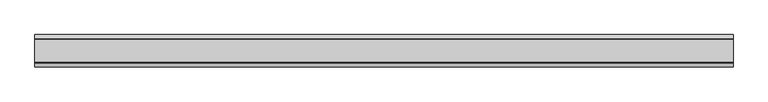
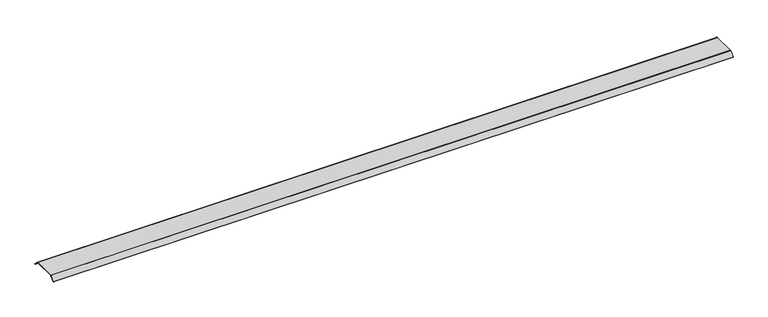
"""IFC4 building model written with IfcOpenShell, lengths in millimetres: proxy geometry, Electrical_Installation_Hager_Blank-Cover-800mm-Double-Sided-Height-40mm : Electrical_Installation_Hager_Blank-Cover-800mm-Double-Sided-Height-40mm."""

from ifc_helpers import new_model, si_unit, point, frame, frame_2d, origin, place, context, project, spatial, polyline, circle_curve, trimmed, segment, composite_curve, outline, extrude, source, transform, mapped, element, save


def electrical_fixtures_dc33c729(model_context):
    return source(origin(), model_context, "Body", "SweptSolid", [
        extrude(outline(composite_curve([segment(trimmed(circle_curve(frame_2d((98.9838855, 19.0468826)), 6.4531174), [point((98.9838855, 25.5))], [point((103.5469286, 23.6099257))], False, "CARTESIAN"), True, "CONTINUOUS"), segment(polyline([(103.5469286, 23.6099257), (140.0386103, -12.8817561), (137.91729, -15.0030764), (101.2293119, 21.6849016)]), True, "CONTINUOUS"), segment(trimmed(circle_curve(frame_2d((99.2614904, 19.7170801)), 2.7829199), [point((101.2293119, 21.6849016))], [point((99.2614904, 22.5))], True, "CARTESIAN"), True, "CONTINUOUS"), segment(polyline([(99.2614904, 22.5), (-99.8229541, 22.5)]), True, "CONTINUOUS"), segment(trimmed(circle_curve(frame_2d((-99.8229541, 21.0725733)), 1.4274267), [point((-99.8229541, 22.5))], [point((-100.8322972, 22.0819164))], True, "CARTESIAN"), True, "CONTINUOUS"), segment(polyline([(-100.8322972, 22.0819164), (-137.91729, -15.0030764), (-140.0386103, -12.8817561), (-102.8206472, 24.336207)]), True, "CONTINUOUS"), segment(trimmed(circle_curve(frame_2d((-100.0110025, 21.5265623)), 3.9734377), [point((-102.8206472, 24.336207))], [point((-100.0110025, 25.5))], False, "CARTESIAN"), True, "CONTINUOUS"), segment(polyline([(-100.0110025, 25.5), (98.9838855, 25.5)]), True, "CONTINUOUS")], self_intersect=False)), frame((0.0, 0.0, 0.0), z_axis=(1.0, 0.0, 0.0), x_axis=(0.0, 1.0, 0.0)), (0.0, 0.0, 1.0), 6011.6956759),
    ])


if __name__ == "__main__":
    model = new_model("IFC4")
    model_context = context("Model", 3, world=origin())
    ifc_project = project(units=[si_unit("LENGTHUNIT", "METRE", prefix="MILLI")], contexts=[model_context])
    site = spatial("IfcSite", under=ifc_project)
    building = spatial("IfcBuilding", under=site)
    placement = place(None, origin())
    electrical_fixtures_shape = electrical_fixtures_dc33c729(model_context)
    element("IfcBuildingElementProxy", 1, Name="Electrical_Installation_Hager_Blank-Cover-800mm-Double-Sided-Height-40mm : Electrical_Installation_Hager_Blank-Cover-800mm-Double-Sided-Height-40mm", ObjectType="Electrical_Installation_Hager_Blank-Cover-800mm-Double-Sided-Height-40mm : Electrical_Installation_Hager_Blank-Cover-800mm-Double-Sided-Height-40mm", at=placement, inside=building, context=model_context, shape_type="MappedRepresentation", body=[
        mapped(electrical_fixtures_shape, transform((0.0, 0.0, 0.0), x_axis=(1.0, 0.0, 0.0), y_axis=(0.0, 1.0, 0.0), z_axis=(0.0, 0.0, 1.0))),
    ])
    save(model, "model.ifc")
